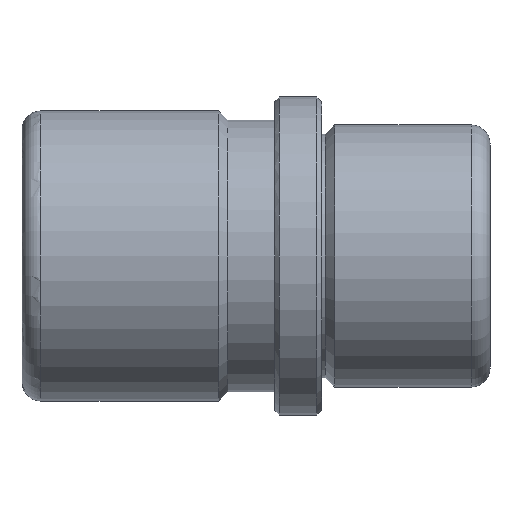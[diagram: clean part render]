
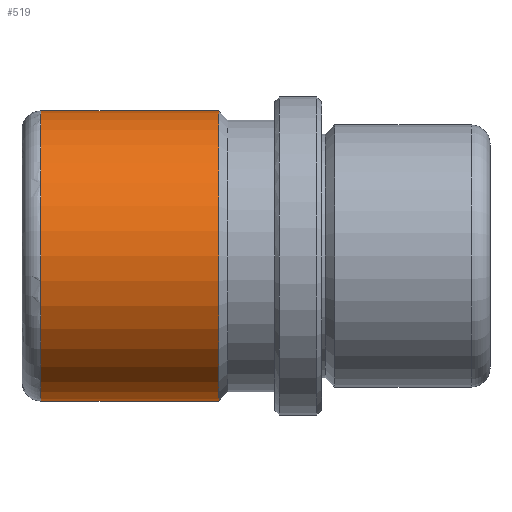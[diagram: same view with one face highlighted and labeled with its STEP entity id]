
A CAD part, front view. The second image highlights one B-rep face of the part: STEP entity #519.
In plain terms, the highlighted cylindrical face has radius 15.5 mm (diameter 31 mm), a partial arc.
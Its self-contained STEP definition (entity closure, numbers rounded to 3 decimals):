
#308=CARTESIAN_POINT('Line Origine',(18.,0.,15.5)) ;
#312=CARTESIAN_POINT('Vertex',(-11.,0.,15.5)) ;
#314=CARTESIAN_POINT('Vertex',(-30.,0.,15.5)) ;
#328=CARTESIAN_POINT('Vertex',(-11.,0.,-15.5)) ;
#331=CARTESIAN_POINT('Line Origine',(18.,0.,-15.5)) ;
#335=CARTESIAN_POINT('Vertex',(-30.,0.,-15.5)) ;
#482=CARTESIAN_POINT('Axis2P3D Location',(18.,0.,0.)) ;
#487=CARTESIAN_POINT('Axis2P3D Location',(-11.,0.,0.)) ;
#491=CARTESIAN_POINT('Vertex',(-11.,-15.5,0.)) ;
#494=CARTESIAN_POINT('Axis2P3D Location',(-11.,0.,0.)) ;
#499=CARTESIAN_POINT('Axis2P3D Location',(-30.,0.,0.)) ;
#503=CARTESIAN_POINT('Vertex',(-30.,-15.5,0.)) ;
#506=CARTESIAN_POINT('Axis2P3D Location',(-30.,0.,0.)) ;
#309=DIRECTION('Vector Direction',(-1.,0.,0.)) ;
#332=DIRECTION('Vector Direction',(-1.,0.,0.)) ;
#483=DIRECTION('Axis2P3D Direction',(-1.,-0.,-0.)) ;
#484=DIRECTION('Axis2P3D XDirection',(0.,0.,-1.)) ;
#488=DIRECTION('Axis2P3D Direction',(-1.,-0.,-0.)) ;
#495=DIRECTION('Axis2P3D Direction',(-1.,-0.,-0.)) ;
#500=DIRECTION('Axis2P3D Direction',(-1.,-0.,-0.)) ;
#507=DIRECTION('Axis2P3D Direction',(-1.,-0.,-0.)) ;
#485=AXIS2_PLACEMENT_3D('Cylinder Axis2P3D',#482,#483,#484) ;
#489=AXIS2_PLACEMENT_3D('Circle Axis2P3D',#487,#488,$) ;
#496=AXIS2_PLACEMENT_3D('Circle Axis2P3D',#494,#495,$) ;
#501=AXIS2_PLACEMENT_3D('Circle Axis2P3D',#499,#500,$) ;
#508=AXIS2_PLACEMENT_3D('Circle Axis2P3D',#506,#507,$) ;
#512=ORIENTED_EDGE('',*,*,#337,.T.) ;
#513=ORIENTED_EDGE('',*,*,#493,.F.) ;
#514=ORIENTED_EDGE('',*,*,#498,.F.) ;
#515=ORIENTED_EDGE('',*,*,#316,.T.) ;
#516=ORIENTED_EDGE('',*,*,#505,.T.) ;
#517=ORIENTED_EDGE('',*,*,#510,.T.) ;
#310=VECTOR('Line Direction',#309,1.) ;
#333=VECTOR('Line Direction',#332,1.) ;
#519=ADVANCED_FACE('FAMO-SF1-C18 x 50',(#518),#486,.T.) ;
#490=CIRCLE('generated circle',#489,15.5) ;
#497=CIRCLE('generated circle',#496,15.5) ;
#502=CIRCLE('generated circle',#501,15.5) ;
#509=CIRCLE('generated circle',#508,15.5) ;
#486=CYLINDRICAL_SURFACE('generated cylinder',#485,15.5) ;
#316=EDGE_CURVE('',#313,#315,#311,.T.) ;
#337=EDGE_CURVE('',#336,#329,#334,.F.) ;
#493=EDGE_CURVE('',#492,#329,#490,.F.) ;
#498=EDGE_CURVE('',#313,#492,#497,.F.) ;
#505=EDGE_CURVE('',#315,#504,#502,.F.) ;
#510=EDGE_CURVE('',#504,#336,#509,.F.) ;
#511=EDGE_LOOP('',(#512,#513,#514,#515,#516,#517)) ;
#518=FACE_OUTER_BOUND('',#511,.T.) ;
#311=LINE('Line',#308,#310) ;
#334=LINE('Line',#331,#333) ;
#313=VERTEX_POINT('',#312) ;
#315=VERTEX_POINT('',#314) ;
#329=VERTEX_POINT('',#328) ;
#336=VERTEX_POINT('',#335) ;
#492=VERTEX_POINT('',#491) ;
#504=VERTEX_POINT('',#503) ;
